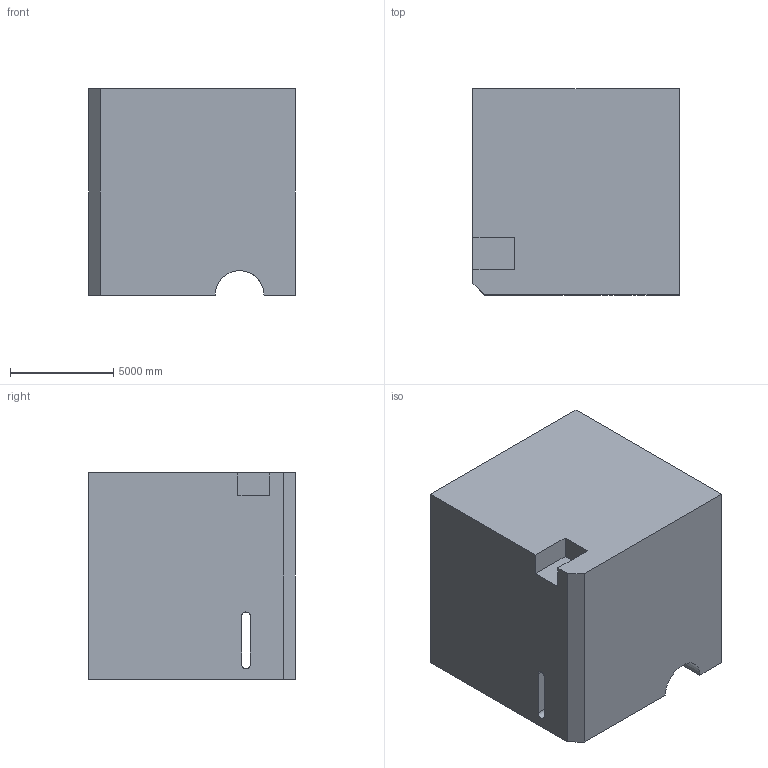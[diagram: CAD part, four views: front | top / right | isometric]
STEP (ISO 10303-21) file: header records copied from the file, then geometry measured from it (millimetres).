
FILE_DESCRIPTION (( 'STEP AP203' ), '1' );
FILE_NAME ('160.STEP', '2022-09-06T13:28:05', ( 'user' ), ( '' ), 'SwSTEP 2.0', 'SolidWorks 2021', '' );
FILE_SCHEMA (( 'CONFIG_CONTROL_DESIGN' ));
Length unit declared in the file: centimetre
Products named in the file (1): 160
Bounding box: 10000 x 10000 x 10000 mm (x, y, z)
Volume: 941082629561.4 mm3; surface area: 742906876.1 mm2
Topology: 1 solids, 1 shells, 32 faces, 84 edges, 56 vertices
Faces by surface type: plane 18, cylinder 14
Entity records: 1269 total; most frequent: CARTESIAN_POINT 363, DIRECTION 178, ORIENTED_EDGE 168, EDGE_CURVE 84, AXIS2_PLACEMENT_3D 63, VERTEX_POINT 56, VECTOR 52, LINE 52
